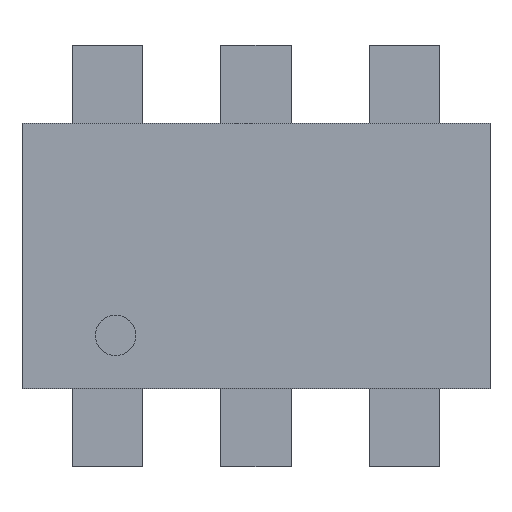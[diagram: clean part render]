
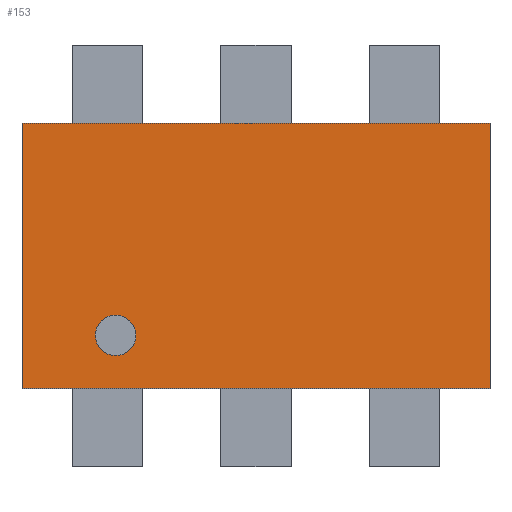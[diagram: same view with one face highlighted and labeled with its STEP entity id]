
A CAD part, top view. The second image highlights one B-rep face of the part: STEP entity #153.
In plain terms, the highlighted planar face has unit normal (0, 0, 1).
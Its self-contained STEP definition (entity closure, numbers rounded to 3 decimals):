
#24 = VERTEX_POINT('',#25);
#25 = CARTESIAN_POINT('',(-1.5,-0.85,1.));
#31 = EDGE_CURVE('',#24,#32,#34,.T.);
#32 = VERTEX_POINT('',#33);
#33 = CARTESIAN_POINT('',(1.5,-0.85,1.));
#34 = LINE('',#35,#36);
#35 = CARTESIAN_POINT('',(-1.5,-0.85,1.));
#36 = VECTOR('',#37,1.);
#37 = DIRECTION('',(1.,0.,0.));
#62 = EDGE_CURVE('',#32,#63,#65,.T.);
#63 = VERTEX_POINT('',#64);
#64 = CARTESIAN_POINT('',(1.5,0.85,1.));
#65 = LINE('',#66,#67);
#66 = CARTESIAN_POINT('',(1.5,-0.85,1.));
#67 = VECTOR('',#68,1.);
#68 = DIRECTION('',(0.,1.,0.));
#93 = EDGE_CURVE('',#63,#94,#96,.T.);
#94 = VERTEX_POINT('',#95);
#95 = CARTESIAN_POINT('',(-1.5,0.85,1.));
#96 = LINE('',#97,#98);
#97 = CARTESIAN_POINT('',(1.5,0.85,1.));
#98 = VECTOR('',#99,1.);
#99 = DIRECTION('',(-1.,0.,0.));
#124 = EDGE_CURVE('',#94,#24,#125,.T.);
#125 = LINE('',#126,#127);
#126 = CARTESIAN_POINT('',(-1.5,0.85,1.));
#127 = VECTOR('',#128,1.);
#128 = DIRECTION('',(0.,-1.,0.));
#153 = ADVANCED_FACE('',(#154),#160,.T.);
#154 = FACE_BOUND('',#155,.T.);
#155 = EDGE_LOOP('',(#156,#157,#158,#159));
#156 = ORIENTED_EDGE('',*,*,#31,.T.);
#157 = ORIENTED_EDGE('',*,*,#62,.T.);
#158 = ORIENTED_EDGE('',*,*,#93,.T.);
#159 = ORIENTED_EDGE('',*,*,#124,.T.);
#160 = PLANE('',#161);
#161 = AXIS2_PLACEMENT_3D('',#162,#163,#164);
#162 = CARTESIAN_POINT('',(0.,0.,1.));
#163 = DIRECTION('',(0.,0.,1.));
#164 = DIRECTION('',(1.,0.,-0.));
